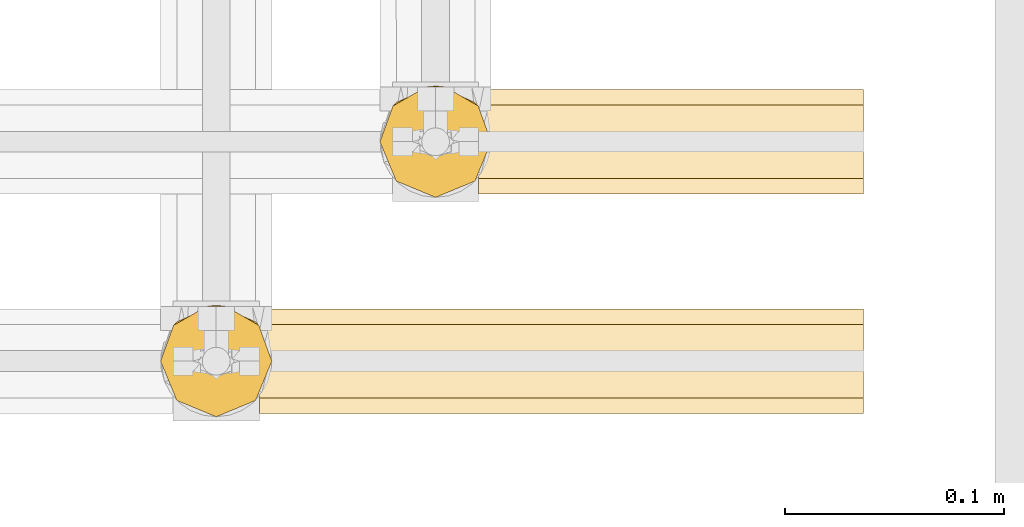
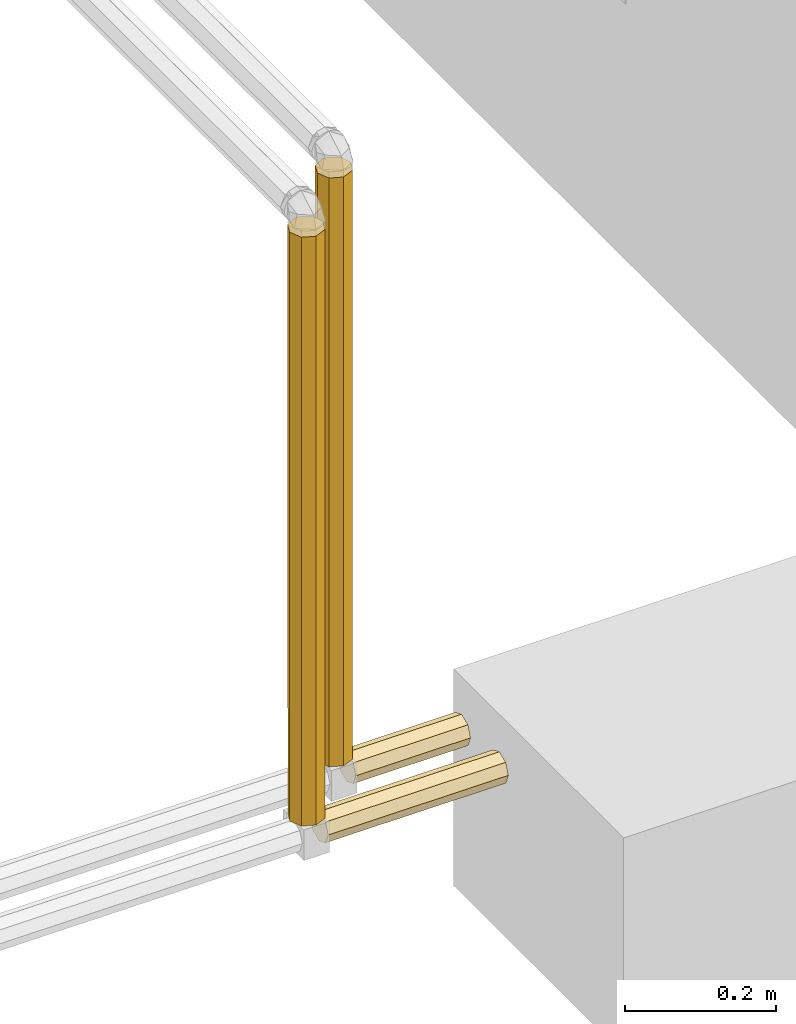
# One storey, part 174 of 652: 4 coverings.
"""IFC2X3 building model written with IfcOpenShell, lengths in millimetres."""

from ifc_helpers import new_model, entity, si_unit, converted_unit, direction, frame, origin, place, context, subcontext, project, spatial, faceted_brep, material, type_object, element, save


model = new_model("IFC2X3")

# Units and contexts
model_context = context("Model", 3, precision=0.01, world=frame((0.0, 0.0, 308426.39999999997)), true_north=direction((6.123233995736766e-17, 1.0)))
plan_context = context("Plan", 3, precision=0.01, world=frame((0.0, 0.0, 308426.39999999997)), true_north=direction((6.123233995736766e-17, 1.0)))
body_context = subcontext(model_context, "Body", "Model", "MODEL_VIEW")
ifc_project = project(units=[si_unit("LENGTHUNIT", "METRE", prefix="MILLI"), si_unit("AREAUNIT", "SQUARE_METRE"), si_unit("VOLUMEUNIT", "CUBIC_METRE"), converted_unit("PLANEANGLEUNIT", "DEGREE", entity("IfcPlaneAngleMeasure", 0.017453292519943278), si_unit("PLANEANGLEUNIT", "RADIAN"), dimensions=[0, 0, 0, 0, 0, 0, 0])], contexts=[model_context, plan_context])

# Site, building, storey
site_placement = place(None, origin())
site = spatial("IfcSite", under=ifc_project, at=site_placement, Name="Default", CompositionType="ELEMENT")
building_placement = place(site_placement, origin())
building = spatial("IfcBuilding", under=site, at=building_placement, CompositionType="ELEMENT")
storey_placement = place(building_placement, frame((0.0, 0.0, 1730.6999999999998)))
storey = spatial("IfcBuildingStorey", under=building, at=storey_placement, Name="EG_Produktion_FFB", CompositionType="ELEMENT", Elevation=1730.6999999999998)

# Coverings
ifc_material = material(Name="Dämmung - Armaflex-Schlauch")
covering_type = type_object("IfcCoveringType", Name="Rohrdämmung außen:Armaflex-Schlauch", PredefinedType="INSULATION")
covering_1_placement = place(storey_placement, frame((40239.64924999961, 62899.64222776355, 2674.642227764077)))
element("IfcCovering", 1, at=covering_1_placement, inside=storey, type_object=covering_type, material=ifc_material, Name="Rohrdämmung außen:Armaflex-Schlauch", ObjectType="Rohrdämmung außen:Armaflex-Schlauch", PredefinedType="INSULATION", context=body_context, shape_type="Brep", body=[
    faceted_brep([(275.3507499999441, 49.12027223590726, 25.35777223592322), (275.3507499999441, 47.20814755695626, 29.974049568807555), (275.3507499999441, 45.640334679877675, 33.75908467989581), (275.3507499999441, 43.90036590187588, 37.9597409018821), (275.3507499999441, 42.160397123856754, 42.16039712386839), (275.3507499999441, 37.95974090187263, 43.900365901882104), (275.3507499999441, 33.759084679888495, 45.640334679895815), (275.3507499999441, 29.558428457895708, 47.38030345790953), (275.3507499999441, 25.35777223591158, 49.12027223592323), (275.3507499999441, 20.741494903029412, 47.2081475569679), (275.3507499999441, 16.956459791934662, 45.640334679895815), (275.3507499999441, 12.755803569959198, 43.900365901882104), (275.3507499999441, 8.55514734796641, 42.16039712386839), (275.3507499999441, 6.815178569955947, 37.9597409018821), (275.3507499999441, 5.075209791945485, 33.75908467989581), (275.3507499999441, 3.3352410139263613, 29.558428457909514), (275.3507499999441, 1.5952722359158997, 25.35777223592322), (275.3507499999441, 3.335241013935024, 21.15711601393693), (275.3507499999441, 5.075209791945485, 16.956459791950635), (275.3507499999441, 6.815178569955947, 12.755803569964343), (275.3507499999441, 8.55514734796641, 8.55514734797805), (275.3507499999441, 12.755803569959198, 6.815178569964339), (275.3507499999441, 16.956459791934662, 5.07520979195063), (275.3507499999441, 21.15711601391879, 3.335241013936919), (275.3507499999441, 25.35777223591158, 1.5952722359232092), (275.3507499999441, 29.974049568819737, 3.5073969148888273), (275.3507499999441, 33.759084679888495, 5.07520979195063), (275.3507499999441, 37.95974090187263, 6.815178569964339), (275.3507499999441, 42.160397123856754, 8.55514734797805), (275.3507499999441, 43.90036590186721, 12.755803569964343), (275.3507499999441, 45.640334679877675, 16.956459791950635), (275.3507499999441, 47.3803034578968, 21.15711601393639), (0.0, 37.95974090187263, 6.815178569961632), (0.0, 33.759084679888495, 5.075209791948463), (0.0, 29.55842845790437, 3.3352410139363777), (0.0, 25.35777223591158, 1.595272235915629), (0.0, 20.74149489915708, 3.507396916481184), (0.0, 16.12521756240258, 5.419521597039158), (0.0, 12.34018245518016, 6.987334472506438), (0.0, 8.55514734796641, 8.55514734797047), (0.0, 6.815178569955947, 12.75580356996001), (0.0, 5.075209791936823, 16.95645979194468), (0.0, 3.3352410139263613, 21.15711601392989), (0.0, 1.5952722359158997, 25.35777223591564), (0.0, 3.5073969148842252, 29.97404956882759), (0.0, 5.419521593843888, 34.590326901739), (0.0, 6.987334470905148, 38.3753620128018), (0.0, 8.55514734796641, 42.16039712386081), (0.0, 12.755803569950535, 43.90036590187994), (0.0, 16.956459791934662, 45.64033467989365), (0.0, 21.157116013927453, 47.38030345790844), (0.0, 25.35777223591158, 49.12027223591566), (0.0, 29.974049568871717, 47.208147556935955), (0.0, 34.59032690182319, 45.29602287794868), (0.0, 38.37536201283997, 43.72821000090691), (0.0, 42.160397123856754, 42.16039712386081), (0.0, 43.90036590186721, 37.959740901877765), (0.0, 45.640334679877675, 33.75908467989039), (0.0, 47.3803034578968, 29.558428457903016), (0.0, 49.12027223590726, 25.35777223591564), (0.0, 47.20814755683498, 20.741494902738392), (0.0, 45.296022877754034, 16.12521756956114), (0.0, 43.7282100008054, 12.34018245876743), (0.0, 42.160397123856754, 8.55514734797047)], [[[0, 1, 2, 3, 4, 5, 6, 7, 8, 9, 10, 11, 12, 13, 14, 15, 16, 17, 18, 19, 20, 21, 22, 23, 24, 25, 26, 27, 28, 29, 30, 31]], [[32, 33, 34, 35, 36, 37, 38, 39, 40, 41, 42, 43, 44, 45, 46, 47, 48, 49, 50, 51, 52, 53, 54, 55, 56, 57, 58, 59, 60, 61, 62, 63]], [[41, 40, 39, 20, 19, 18, 17, 16, 43, 42]], [[20, 39, 38, 37, 36, 35, 24, 23, 22, 21]], [[59, 0, 31, 30, 29, 28, 63, 62, 61, 60]], [[27, 26, 25, 24, 35, 34, 33, 32, 63, 28]], [[51, 8, 7, 6, 5, 4, 55, 54, 53, 52]], [[3, 2, 1, 0, 59, 58, 57, 56, 55, 4]], [[43, 16, 15, 14, 13, 12, 47, 46, 45, 44]], [[11, 10, 9, 8, 51, 50, 49, 48, 47, 12]]]),
])
covering_2_placement = place(storey_placement, frame((40339.64924999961, 62999.64222776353, 2674.642227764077)))
element("IfcCovering", 2, at=covering_2_placement, inside=storey, type_object=covering_type, material=ifc_material, Name="Rohrdämmung außen:Armaflex-Schlauch", ObjectType="Rohrdämmung außen:Armaflex-Schlauch", PredefinedType="INSULATION", context=body_context, shape_type="Brep", body=[
    faceted_brep([(175.35074999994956, 49.12027223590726, 25.35777223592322), (175.35074999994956, 47.618981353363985, 28.982209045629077), (175.35074999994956, 45.640334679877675, 33.75908467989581), (175.35074999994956, 43.90036590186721, 37.95974090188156), (175.35074999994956, 42.160397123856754, 42.16039712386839), (175.35074999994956, 37.95974090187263, 43.900365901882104), (175.35074999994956, 33.759084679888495, 45.640334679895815), (175.35074999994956, 29.558428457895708, 47.38030345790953), (175.35074999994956, 25.35777223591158, 49.12027223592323), (175.35074999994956, 21.73333542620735, 47.6189813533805), (175.35074999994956, 16.956459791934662, 45.640334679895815), (175.35074999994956, 12.755803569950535, 43.900365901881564), (175.35074999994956, 8.55514734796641, 42.16039712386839), (175.35074999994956, 6.815178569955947, 37.9597409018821), (175.35074999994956, 5.075209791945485, 33.75908467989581), (175.35074999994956, 3.335241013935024, 29.558428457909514), (175.35074999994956, 1.5952722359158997, 25.35777223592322), (175.35074999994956, 3.335241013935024, 21.15711601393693), (175.35074999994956, 5.075209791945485, 16.956459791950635), (175.35074999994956, 6.815178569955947, 12.755803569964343), (175.35074999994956, 8.55514734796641, 8.55514734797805), (175.35074999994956, 12.755803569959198, 6.815178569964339), (175.35074999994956, 16.956459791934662, 5.07520979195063), (175.35074999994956, 21.157116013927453, 3.335241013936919), (175.35074999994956, 25.35777223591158, 1.5952722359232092), (175.35074999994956, 28.982209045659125, 3.0965631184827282), (175.35074999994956, 33.759084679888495, 5.07520979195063), (175.35074999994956, 37.95974090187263, 6.815178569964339), (175.35074999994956, 42.160397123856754, 8.55514734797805), (175.35074999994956, 43.90036590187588, 12.755803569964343), (175.35074999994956, 45.64033467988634, 16.956459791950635), (175.35074999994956, 47.38030345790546, 21.15711601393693), (0.0, 37.95974090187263, 6.815178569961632), (0.0, 33.759084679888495, 5.075209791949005), (0.0, 29.55842845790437, 3.3352410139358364), (0.0, 25.35777223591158, 1.595272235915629), (0.0, 18.108898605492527, 4.597854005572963), (0.0, 13.332022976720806, 6.576500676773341), (0.0, 8.55514734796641, 8.55514734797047), (0.0, 6.815178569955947, 12.75580356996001), (0.0, 5.075209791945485, 16.95645979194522), (0.0, 3.335241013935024, 21.15711601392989), (0.0, 1.5952722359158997, 25.35777223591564), (0.0, 4.597854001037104, 32.60664585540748), (0.0, 6.576500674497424, 37.38352148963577), (0.0, 8.55514734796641, 42.16039712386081), (0.0, 12.755803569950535, 43.90036590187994), (0.0, 16.956459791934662, 45.64033467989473), (0.0, 21.157116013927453, 47.38030345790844), (0.0, 25.35777223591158, 49.12027223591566), (0.0, 32.60664585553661, 46.117690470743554), (0.0, 37.38352148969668, 44.139043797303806), (0.0, 42.160397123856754, 42.16039712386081), (0.0, 43.90036590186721, 37.959740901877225), (0.0, 45.640334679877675, 33.75908467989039), (0.0, 47.38030345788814, 29.558428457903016), (0.0, 49.12027223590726, 25.35777223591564), (0.0, 46.117690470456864, 18.10889861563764), (0.0, 44.13904379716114, 13.332022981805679), (0.0, 42.160397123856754, 8.55514734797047)], [[[0, 1, 2, 3, 4, 5, 6, 7, 8, 9, 10, 11, 12, 13, 14, 15, 16, 17, 18, 19, 20, 21, 22, 23, 24, 25, 26, 27, 28, 29, 30, 31]], [[32, 33, 34, 35, 36, 37, 38, 39, 40, 41, 42, 43, 44, 45, 46, 47, 48, 49, 50, 51, 52, 53, 54, 55, 56, 57, 58, 59]], [[40, 39, 38, 20, 19, 18, 17, 16, 42, 41]], [[36, 35, 24, 23, 22, 21, 20, 38, 37]], [[33, 32, 59, 28, 27, 26, 25, 24, 35, 34]], [[28, 59, 58, 57, 56, 0, 31, 30, 29]], [[54, 53, 52, 4, 3, 2, 1, 0, 56, 55]], [[4, 52, 51, 50, 49, 8, 7, 6, 5]], [[47, 46, 45, 12, 11, 10, 9, 8, 49, 48]], [[12, 45, 44, 43, 42, 16, 15, 14, 13]]]),
])
covering_3_placement = place(storey_placement, frame((40193.054727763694, 62898.05472776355, 2723.999000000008)))
element("IfcCovering", 3, at=covering_3_placement, inside=storey, type_object=covering_type, material=ifc_material, Name="Rohrdämmung außen:Armaflex-Schlauch", ObjectType="Rohrdämmung außen:Armaflex-Schlauch", PredefinedType="INSULATION", context=body_context, shape_type="Brep", body=[
    faceted_brep([(1.5952722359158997, 26.94527223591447, 0.0), (3.4514830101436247, 31.42656146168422, 0.0), (5.307693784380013, 35.90785068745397, 0.0), (7.1639045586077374, 40.38913991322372, 0.0), (9.020115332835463, 44.87042913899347, 0.0), (13.501404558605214, 46.7266399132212, 0.0), (17.982693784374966, 48.582850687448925, 0.0), (22.463983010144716, 50.43906146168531, 0.0), (26.94527223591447, 52.29527223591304, 0.0), (31.42656146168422, 50.43906146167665, 0.0), (35.90785068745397, 48.58285068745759, 0.0), (40.38913991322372, 46.7266399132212, 0.0), (44.87042913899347, 44.87042913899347, 0.0), (46.7266399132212, 40.38913991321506, 0.0), (48.582850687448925, 35.90785068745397, 0.0), (50.43906146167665, 31.42656146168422, 0.0), (52.29527223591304, 26.94527223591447, 0.0), (49.85524221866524, 21.05451867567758, 0.0), (48.582850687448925, 17.982693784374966, 0.0), (46.7266399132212, 13.501404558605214, 0.0), (44.87042913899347, 9.020115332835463, 0.0), (40.38913991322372, 7.1639045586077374, 0.0), (35.90785068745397, 5.30769378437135, 0.0), (31.42656146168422, 3.4514830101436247, 0.0), (26.94527223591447, 1.5952722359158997, 0.0), (21.05451867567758, 4.035302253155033, 0.0), (17.982693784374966, 5.30769378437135, 0.0), (13.501404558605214, 7.163904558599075, 0.0), (9.020115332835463, 9.020115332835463, 0.0), (7.1639045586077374, 13.501404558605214, 0.0), (5.307693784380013, 17.982693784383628, 0.0), (3.4514830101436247, 22.46398301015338, 0.0), (31.335193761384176, 51.91227223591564, 951.0339999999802), (22.55535071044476, 51.91227223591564, 951.0339999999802), (15.045383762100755, 47.5816860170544, 951.0339999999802), (7.535416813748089, 43.251099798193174, 951.0339999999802), (5.662504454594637, 38.10991416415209, 951.0339999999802), (3.789592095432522, 32.96872853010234, 951.0339999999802), (1.5952722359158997, 26.94527223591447, 951.0339999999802), (4.035302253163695, 21.05451867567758, 951.0339999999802), (6.475332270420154, 15.163765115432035, 951.0339999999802), (9.020115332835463, 9.020115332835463, 951.0339999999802), (13.501404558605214, 7.1639045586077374, 951.0339999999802), (17.982693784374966, 5.30769378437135, 951.0339999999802), (22.463983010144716, 3.4514830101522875, 951.0339999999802), (26.94527223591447, 1.5952722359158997, 951.0339999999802), (32.83602579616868, 4.035302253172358, 951.0339999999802), (38.72677935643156, 6.475332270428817, 951.0339999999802), (44.87042913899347, 9.020115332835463, 951.0339999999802), (46.7266399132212, 13.501404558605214, 951.0339999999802), (48.582850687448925, 17.982693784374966, 951.0339999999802), (50.43906146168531, 22.46398301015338, 951.0339999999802), (52.29527223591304, 26.94527223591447, 951.0339999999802), (51.19811231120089, 29.957000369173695, 951.0339999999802), (49.32519994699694, 35.098186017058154, 951.0339999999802), (47.8401638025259, 39.174642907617, 951.0339999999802), (46.355127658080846, 43.251099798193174, 951.0339999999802), (38.845160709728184, 47.5816860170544, 951.0339999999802), (24.74197357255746, 52.19934072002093, 950.746931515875), (26.94527223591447, 52.29527223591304, 950.650999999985), (29.148570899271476, 52.19934072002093, 950.746931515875)], [[[0, 1, 2, 3, 4, 5, 6, 7, 8, 9, 10, 11, 12, 13, 14, 15, 16, 17, 18, 19, 20, 21, 22, 23, 24, 25, 26, 27, 28, 29, 30, 31]], [[32, 33, 34, 35, 36, 37, 38, 39, 40, 41, 42, 43, 44, 45, 46, 47, 48, 49, 50, 51, 52, 53, 54, 55, 56, 57]], [[2, 36, 3]], [[34, 6, 5, 4]], [[37, 2, 1]], [[1, 0, 38]], [[34, 33, 6]], [[35, 3, 36]], [[8, 58, 59]], [[38, 37, 1]], [[7, 6, 33]], [[2, 37, 36]], [[34, 4, 35]], [[58, 7, 33]], [[7, 58, 8]], [[35, 4, 3]], [[32, 10, 9]], [[55, 54, 14]], [[9, 60, 32]], [[10, 32, 57]], [[55, 14, 13]], [[53, 52, 16]], [[54, 15, 14]], [[13, 56, 55]], [[57, 12, 11, 10]], [[15, 54, 53]], [[60, 8, 59]], [[12, 57, 56]], [[12, 56, 13]], [[53, 16, 15]], [[8, 60, 9]], [[22, 21, 20, 48, 47, 46, 45, 24, 23]], [[19, 18, 17, 16, 52, 51, 50, 49, 48, 20]], [[30, 29, 28, 41, 40, 39, 38, 0, 31]], [[27, 26, 25, 24, 45, 44, 43, 42, 41, 28]], [[58, 33, 32, 60, 59]]]),
])
covering_4_placement = place(storey_placement, frame((40293.05472776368, 62998.05472776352, 2723.999000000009)))
element("IfcCovering", 4, at=covering_4_placement, inside=storey, type_object=covering_type, material=ifc_material, Name="Rohrdämmung außen:Armaflex-Schlauch", ObjectType="Rohrdämmung außen:Armaflex-Schlauch", PredefinedType="INSULATION", context=body_context, shape_type="Brep", body=[
    faceted_brep([(1.5952722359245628, 26.94527223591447, 0.0), (3.4514830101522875, 31.426561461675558, 0.0), (5.307693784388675, 35.90785068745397, 0.0), (7.163904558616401, 40.38913991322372, 0.0), (9.020115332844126, 44.87042913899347, 0.0), (13.501404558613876, 46.7266399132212, 0.0), (17.982693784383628, 48.58285068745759, 0.0), (22.46398301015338, 50.43906146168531, 0.0), (26.94527223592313, 52.29527223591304, 0.0), (31.426561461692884, 50.43906146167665, 0.0), (35.907850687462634, 48.58285068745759, 0.0), (40.389139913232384, 46.7266399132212, 0.0), (44.870429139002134, 44.87042913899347, 0.0), (46.72663991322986, 40.38913991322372, 0.0), (48.58285068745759, 35.90785068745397, 0.0), (50.439061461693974, 31.426561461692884, 0.0), (52.2952722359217, 26.94527223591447, 0.0), (49.8552422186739, 21.05451867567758, 0.0), (48.58285068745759, 17.982693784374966, 0.0), (46.72663991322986, 13.501404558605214, 0.0), (44.870429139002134, 9.020115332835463, 0.0), (40.389139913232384, 7.1639045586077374, 0.0), (35.907850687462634, 5.30769378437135, 0.0), (31.426561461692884, 3.4514830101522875, 0.0), (26.94527223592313, 1.5952722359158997, 0.0), (21.054518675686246, 4.035302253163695, 0.0), (17.982693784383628, 5.30769378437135, 0.0), (13.501404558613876, 7.163904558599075, 0.0), (9.020115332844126, 9.020115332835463, 0.0), (7.163904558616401, 13.501404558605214, 0.0), (5.307693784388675, 17.982693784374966, 0.0), (3.4514830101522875, 22.463983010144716, 0.0), (31.33519376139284, 51.91227223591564, 951.0339999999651), (22.55535071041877, 51.91227223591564, 951.0339999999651), (15.04538376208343, 47.58168601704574, 951.0339999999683), (7.535416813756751, 43.25109979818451, 951.0339999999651), (5.662504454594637, 38.10991416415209, 951.0339999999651), (3.789592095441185, 32.968728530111, 951.0339999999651), (1.5952722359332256, 26.94527223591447, 951.0339999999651), (4.035302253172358, 21.05451867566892, 951.0339999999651), (6.475332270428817, 15.163765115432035, 951.0339999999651), (9.020115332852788, 9.020115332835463, 951.0339999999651), (13.50140455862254, 7.163904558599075, 951.0339999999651), (17.982693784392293, 5.30769378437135, 951.0339999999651), (22.463983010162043, 3.4514830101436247, 951.0339999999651), (26.945272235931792, 1.5952722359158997, 951.0339999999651), (32.83602579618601, 4.035302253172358, 951.0339999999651), (38.72677935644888, 6.475332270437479, 951.0339999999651), (44.8704291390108, 9.020115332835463, 951.0339999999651), (46.72663991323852, 13.501404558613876, 951.0339999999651), (48.58285068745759, 17.982693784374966, 951.033999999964), (50.439061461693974, 22.463983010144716, 951.0339999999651), (52.29527223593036, 26.94527223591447, 951.0339999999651), (51.19811231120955, 29.957000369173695, 951.0339999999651), (49.32519994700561, 35.09818601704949, 951.0339999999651), (47.84016380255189, 39.174642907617, 951.0339999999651), (46.35512765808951, 43.251099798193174, 951.0339999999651), (38.84516070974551, 47.58168601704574, 951.0339999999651), (24.741973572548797, 52.19934072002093, 950.7469315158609), (26.945272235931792, 52.29527223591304, 950.6509999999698), (29.14857089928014, 52.19934072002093, 950.7469315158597)], [[[0, 1, 2, 3, 4, 5, 6, 7, 8, 9, 10, 11, 12, 13, 14, 15, 16, 17, 18, 19, 20, 21, 22, 23, 24, 25, 26, 27, 28, 29, 30, 31]], [[32, 33, 34, 35, 36, 37, 38, 39, 40, 41, 42, 43, 44, 45, 46, 47, 48, 49, 50, 51, 52, 53, 54, 55, 56, 57]], [[2, 36, 3]], [[34, 6, 5, 4]], [[37, 2, 1]], [[1, 0, 38]], [[34, 33, 6]], [[35, 3, 36]], [[8, 58, 59]], [[38, 37, 1]], [[7, 6, 33]], [[2, 37, 36]], [[34, 4, 35]], [[58, 7, 33]], [[7, 58, 8]], [[35, 4, 3]], [[32, 10, 9]], [[55, 54, 14]], [[9, 60, 32]], [[10, 32, 57]], [[55, 14, 13]], [[53, 52, 16]], [[54, 15, 14]], [[13, 56, 55]], [[57, 12, 11, 10]], [[15, 54, 53]], [[60, 8, 59]], [[12, 57, 56]], [[12, 56, 13]], [[53, 16, 15]], [[8, 60, 9]], [[22, 21, 20, 48, 47, 46, 45, 24, 23]], [[19, 18, 17, 16, 52, 51, 50, 49, 48, 20]], [[30, 29, 28, 41, 40, 39, 38, 0, 31]], [[27, 26, 25, 24, 45, 44, 43, 42, 41, 28]], [[58, 33, 32, 60, 59]]]),
])

save(model, "model.ifc")
